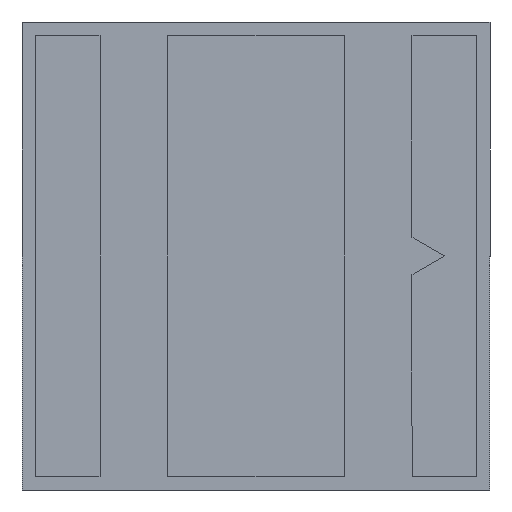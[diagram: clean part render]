
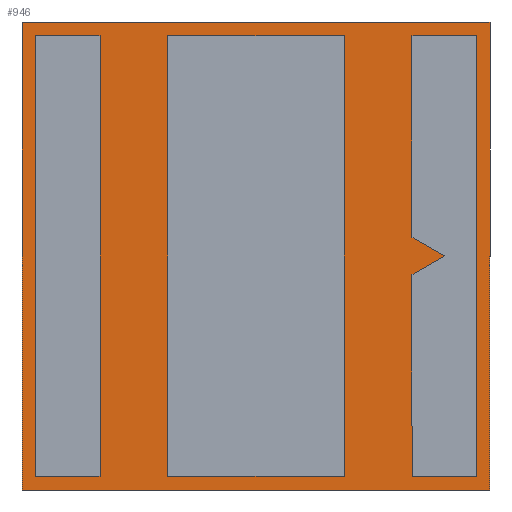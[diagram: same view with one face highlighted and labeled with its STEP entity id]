
A CAD part, front view. The second image highlights one B-rep face of the part: STEP entity #946.
In plain terms, the highlighted planar face has unit normal (0, -1, 0).
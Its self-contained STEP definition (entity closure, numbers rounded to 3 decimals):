
#12 = ORIENTED_EDGE ( 'NONE', *, *, #25, .F. ) ;
#17 = VECTOR ( 'NONE', #766, 1000. ) ;
#18 = DIRECTION ( 'NONE',  ( 0., 0., -1. ) ) ;
#19 = ORIENTED_EDGE ( 'NONE', *, *, #208, .F. ) ;
#25 = EDGE_CURVE ( 'NONE', #533, #317, #141, .T. ) ;
#34 = DIRECTION ( 'NONE',  ( 0., 0., -1. ) ) ;
#36 = DIRECTION ( 'NONE',  ( 1., 0., 0. ) ) ;
#37 = CARTESIAN_POINT ( 'NONE',  ( 0.65, 0., 1.625 ) ) ;
#39 = DIRECTION ( 'NONE',  ( 0., 0., -1. ) ) ;
#49 = CARTESIAN_POINT ( 'NONE',  ( -1.725, 0., 1.725 ) ) ;
#72 = VERTEX_POINT ( 'NONE', #395 ) ;
#77 = LINE ( 'NONE', #980, #304 ) ;
#78 = VECTOR ( 'NONE', #36, 1000. ) ;
#79 = VERTEX_POINT ( 'NONE', #643 ) ;
#81 = VERTEX_POINT ( 'NONE', #891 ) ;
#92 = VERTEX_POINT ( 'NONE', #498 ) ;
#100 = VECTOR ( 'NONE', #722, 1000. ) ;
#106 = EDGE_CURVE ( 'NONE', #72, #331, #540, .T. ) ;
#109 = VECTOR ( 'NONE', #583, 1000. ) ;
#117 = ORIENTED_EDGE ( 'NONE', *, *, #253, .F. ) ;
#119 = EDGE_CURVE ( 'NONE', #79, #533, #752, .T. ) ;
#120 = CARTESIAN_POINT ( 'NONE',  ( -0.65, 0., 1.625 ) ) ;
#124 = VECTOR ( 'NONE', #293, 1000. ) ;
#125 = LINE ( 'NONE', #896, #865 ) ;
#129 = VERTEX_POINT ( 'NONE', #576 ) ;
#139 = ORIENTED_EDGE ( 'NONE', *, *, #497, .F. ) ;
#141 = LINE ( 'NONE', #245, #812 ) ;
#144 = ORIENTED_EDGE ( 'NONE', *, *, #224, .F. ) ;
#149 = VERTEX_POINT ( 'NONE', #247 ) ;
#151 = VECTOR ( 'NONE', #242, 1000. ) ;
#155 = EDGE_CURVE ( 'NONE', #92, #483, #125, .T. ) ;
#163 = VERTEX_POINT ( 'NONE', #807 ) ;
#166 = ORIENTED_EDGE ( 'NONE', *, *, #594, .F. ) ;
#181 = LINE ( 'NONE', #301, #100 ) ;
#194 = DIRECTION ( 'NONE',  ( -1., 0., 0. ) ) ;
#195 = FACE_OUTER_BOUND ( 'NONE', #1007, .T. ) ;
#196 = VECTOR ( 'NONE', #296, 1000. ) ;
#202 = PLANE ( 'NONE',  #889 ) ;
#207 = VERTEX_POINT ( 'NONE', #410 ) ;
#208 = EDGE_CURVE ( 'NONE', #163, #645, #1016, .T. ) ;
#222 = VERTEX_POINT ( 'NONE', #120 ) ;
#223 = CARTESIAN_POINT ( 'NONE',  ( 1.725, 0., -1.725 ) ) ;
#224 = EDGE_CURVE ( 'NONE', #820, #79, #924, .T. ) ;
#232 = CARTESIAN_POINT ( 'NONE',  ( 1.15, 0., -1.625 ) ) ;
#239 = EDGE_CURVE ( 'NONE', #222, #129, #633, .T. ) ;
#242 = DIRECTION ( 'NONE',  ( -1., 0., 0. ) ) ;
#243 = EDGE_LOOP ( 'NONE', ( #323, #566, #117, #816 ) ) ;
#244 = VERTEX_POINT ( 'NONE', #431 ) ;
#245 = CARTESIAN_POINT ( 'NONE',  ( -1.725, 0., -1.725 ) ) ;
#247 = CARTESIAN_POINT ( 'NONE',  ( 1.15, 0., 1.625 ) ) ;
#253 = EDGE_CURVE ( 'NONE', #129, #796, #292, .T. ) ;
#265 = VECTOR ( 'NONE', #18, 1000. ) ;
#273 = CARTESIAN_POINT ( 'NONE',  ( -1.725, 0., -1.725 ) ) ;
#275 = DIRECTION ( 'NONE',  ( 1., 0., 0. ) ) ;
#278 = VECTOR ( 'NONE', #935, 1000. ) ;
#292 = LINE ( 'NONE', #688, #977 ) ;
#293 = DIRECTION ( 'NONE',  ( 1., 0., 0. ) ) ;
#296 = DIRECTION ( 'NONE',  ( 0., 0., 1. ) ) ;
#301 = CARTESIAN_POINT ( 'NONE',  ( -1.625, 0., 1.625 ) ) ;
#304 = VECTOR ( 'NONE', #342, 1000. ) ;
#307 = EDGE_CURVE ( 'NONE', #645, #92, #427, .T. ) ;
#310 = EDGE_CURVE ( 'NONE', #343, #222, #77, .T. ) ;
#315 = VECTOR ( 'NONE', #969, 1000. ) ;
#317 = VERTEX_POINT ( 'NONE', #273 ) ;
#323 = ORIENTED_EDGE ( 'NONE', *, *, #310, .F. ) ;
#331 = VERTEX_POINT ( 'NONE', #902 ) ;
#342 = DIRECTION ( 'NONE',  ( -1., 0., 0. ) ) ;
#343 = VERTEX_POINT ( 'NONE', #984 ) ;
#356 = DIRECTION ( 'NONE',  ( 0., 1., 0. ) ) ;
#364 = FACE_BOUND ( 'NONE', #243, .T. ) ;
#376 = VECTOR ( 'NONE', #406, 1000. ) ;
#389 = CARTESIAN_POINT ( 'NONE',  ( -1.15, 0., 1.625 ) ) ;
#395 = CARTESIAN_POINT ( 'NONE',  ( 1.625, 0., -1.625 ) ) ;
#396 = VECTOR ( 'NONE', #194, 1000. ) ;
#404 = EDGE_CURVE ( 'NONE', #244, #81, #603, .T. ) ;
#406 = DIRECTION ( 'NONE',  ( 0., 0., 1. ) ) ;
#410 = CARTESIAN_POINT ( 'NONE',  ( -1.15, 0., 1.625 ) ) ;
#427 = LINE ( 'NONE', #910, #17 ) ;
#431 = CARTESIAN_POINT ( 'NONE',  ( -1.625, 0., -1.625 ) ) ;
#445 = ORIENTED_EDGE ( 'NONE', *, *, #307, .F. ) ;
#457 = FACE_BOUND ( 'NONE', #745, .T. ) ;
#460 = ORIENTED_EDGE ( 'NONE', *, *, #705, .F. ) ;
#462 = ORIENTED_EDGE ( 'NONE', *, *, #514, .F. ) ;
#464 = CARTESIAN_POINT ( 'NONE',  ( 1.15, 0., -1.625 ) ) ;
#471 = VECTOR ( 'NONE', #34, 1000. ) ;
#477 = CARTESIAN_POINT ( 'NONE',  ( -1.625, 0., 1.625 ) ) ;
#483 = VERTEX_POINT ( 'NONE', #232 ) ;
#489 = CARTESIAN_POINT ( 'NONE',  ( 1.625, 0., -1.625 ) ) ;
#490 = CARTESIAN_POINT ( 'NONE',  ( 1.725, 0., -1.725 ) ) ;
#494 = VECTOR ( 'NONE', #39, 1000. ) ;
#497 = EDGE_CURVE ( 'NONE', #81, #207, #877, .T. ) ;
#498 = CARTESIAN_POINT ( 'NONE',  ( 1.15, 0., -0.137 ) ) ;
#504 = CARTESIAN_POINT ( 'NONE',  ( -1.725, 0., -1.725 ) ) ;
#512 = DIRECTION ( 'NONE',  ( 0., 0., 1. ) ) ;
#514 = EDGE_CURVE ( 'NONE', #742, #244, #181, .T. ) ;
#528 = ORIENTED_EDGE ( 'NONE', *, *, #404, .F. ) ;
#533 = VERTEX_POINT ( 'NONE', #223 ) ;
#538 = LINE ( 'NONE', #464, #278 ) ;
#540 = LINE ( 'NONE', #489, #315 ) ;
#566 = ORIENTED_EDGE ( 'NONE', *, *, #845, .F. ) ;
#576 = CARTESIAN_POINT ( 'NONE',  ( -0.65, 0., -1.625 ) ) ;
#579 = CARTESIAN_POINT ( 'NONE',  ( 0.65, 0., -1.625 ) ) ;
#583 = DIRECTION ( 'NONE',  ( 0., 0., 1. ) ) ;
#590 = DIRECTION ( 'NONE',  ( 0.866, 0., -0.5 ) ) ;
#594 = EDGE_CURVE ( 'NONE', #483, #72, #538, .T. ) ;
#603 = LINE ( 'NONE', #841, #124 ) ;
#609 = ORIENTED_EDGE ( 'NONE', *, *, #611, .F. ) ;
#611 = EDGE_CURVE ( 'NONE', #149, #163, #988, .T. ) ;
#625 = EDGE_LOOP ( 'NONE', ( #166, #721, #445, #19, #609, #1004, #1018 ) ) ;
#633 = LINE ( 'NONE', #989, #494 ) ;
#643 = CARTESIAN_POINT ( 'NONE',  ( 1.725, 0., 1.725 ) ) ;
#645 = VERTEX_POINT ( 'NONE', #737 ) ;
#646 = LINE ( 'NONE', #504, #376 ) ;
#662 = CARTESIAN_POINT ( 'NONE',  ( -1.725, 0., 1.725 ) ) ;
#688 = CARTESIAN_POINT ( 'NONE',  ( -0.65, 0., -1.625 ) ) ;
#705 = EDGE_CURVE ( 'NONE', #207, #742, #885, .T. ) ;
#719 = CARTESIAN_POINT ( 'NONE',  ( 1.15, 0., 1.625 ) ) ;
#721 = ORIENTED_EDGE ( 'NONE', *, *, #155, .F. ) ;
#722 = DIRECTION ( 'NONE',  ( 0., 0., -1. ) ) ;
#723 = DIRECTION ( 'NONE',  ( -1., 0., 0. ) ) ;
#735 = DIRECTION ( 'NONE',  ( 0., 0., -1. ) ) ;
#737 = CARTESIAN_POINT ( 'NONE',  ( 1.387, 0., 0. ) ) ;
#741 = VECTOR ( 'NONE', #590, 1000. ) ;
#742 = VERTEX_POINT ( 'NONE', #477 ) ;
#745 = EDGE_LOOP ( 'NONE', ( #460, #139, #528, #462 ) ) ;
#752 = LINE ( 'NONE', #490, #471 ) ;
#755 = CARTESIAN_POINT ( 'NONE',  ( 1.625, 0., 1.625 ) ) ;
#761 = LINE ( 'NONE', #37, #109 ) ;
#766 = DIRECTION ( 'NONE',  ( -0.866, 0., -0.5 ) ) ;
#796 = VERTEX_POINT ( 'NONE', #579 ) ;
#799 = EDGE_CURVE ( 'NONE', #317, #820, #646, .T. ) ;
#801 = FACE_BOUND ( 'NONE', #625, .T. ) ;
#807 = CARTESIAN_POINT ( 'NONE',  ( 1.15, 0., 0.137 ) ) ;
#812 = VECTOR ( 'NONE', #723, 1000. ) ;
#816 = ORIENTED_EDGE ( 'NONE', *, *, #239, .F. ) ;
#817 = ORIENTED_EDGE ( 'NONE', *, *, #119, .F. ) ;
#820 = VERTEX_POINT ( 'NONE', #662 ) ;
#833 = CARTESIAN_POINT ( 'NONE',  ( 0., 0., 0. ) ) ;
#841 = CARTESIAN_POINT ( 'NONE',  ( -1.625, 0., -1.625 ) ) ;
#845 = EDGE_CURVE ( 'NONE', #796, #343, #761, .T. ) ;
#865 = VECTOR ( 'NONE', #735, 1000. ) ;
#877 = LINE ( 'NONE', #1020, #196 ) ;
#884 = CARTESIAN_POINT ( 'NONE',  ( 1.387, 0., 0. ) ) ;
#885 = LINE ( 'NONE', #389, #151 ) ;
#888 = ORIENTED_EDGE ( 'NONE', *, *, #799, .F. ) ;
#889 = AXIS2_PLACEMENT_3D ( 'NONE', #833, #356, #512 ) ;
#891 = CARTESIAN_POINT ( 'NONE',  ( -1.15, 0., -1.625 ) ) ;
#896 = CARTESIAN_POINT ( 'NONE',  ( 1.15, 0., -0.137 ) ) ;
#902 = CARTESIAN_POINT ( 'NONE',  ( 1.625, 0., 1.625 ) ) ;
#910 = CARTESIAN_POINT ( 'NONE',  ( 1.387, 0., 0. ) ) ;
#924 = LINE ( 'NONE', #49, #78 ) ;
#935 = DIRECTION ( 'NONE',  ( 1., 0., 0. ) ) ;
#946 = ADVANCED_FACE ( 'NONE', ( #457, #195, #364, #801 ), #202, .F. ) ;
#949 = LINE ( 'NONE', #755, #396 ) ;
#969 = DIRECTION ( 'NONE',  ( 0., 0., 1. ) ) ;
#977 = VECTOR ( 'NONE', #275, 1000. ) ;
#980 = CARTESIAN_POINT ( 'NONE',  ( 0.65, 0., 1.625 ) ) ;
#984 = CARTESIAN_POINT ( 'NONE',  ( 0.65, 0., 1.625 ) ) ;
#988 = LINE ( 'NONE', #719, #265 ) ;
#989 = CARTESIAN_POINT ( 'NONE',  ( -0.65, 0., 1.625 ) ) ;
#992 = EDGE_CURVE ( 'NONE', #331, #149, #949, .T. ) ;
#1004 = ORIENTED_EDGE ( 'NONE', *, *, #992, .F. ) ;
#1007 = EDGE_LOOP ( 'NONE', ( #888, #12, #817, #144 ) ) ;
#1016 = LINE ( 'NONE', #884, #741 ) ;
#1018 = ORIENTED_EDGE ( 'NONE', *, *, #106, .F. ) ;
#1020 = CARTESIAN_POINT ( 'NONE',  ( -1.15, 0., 1.625 ) ) ;
